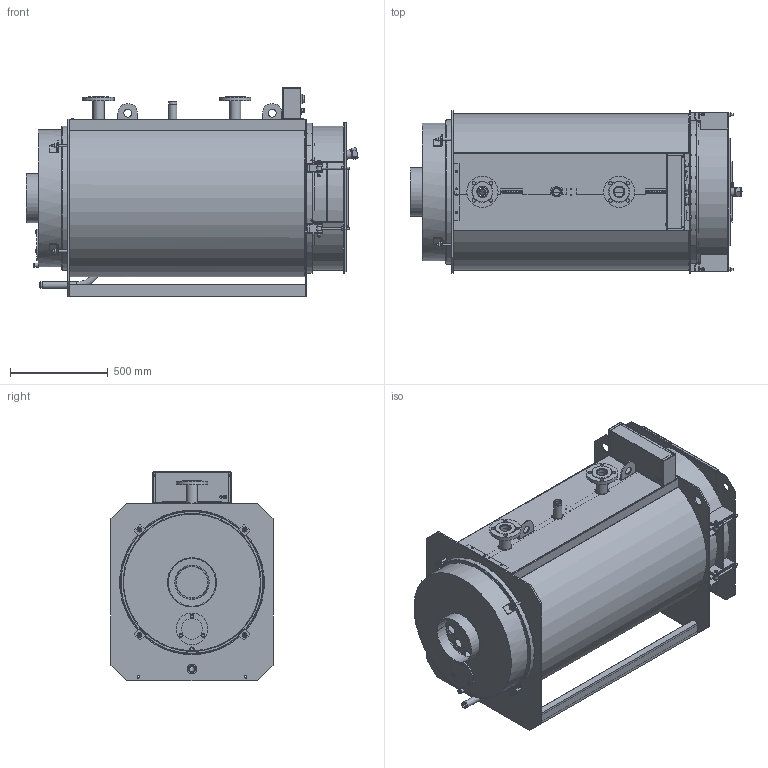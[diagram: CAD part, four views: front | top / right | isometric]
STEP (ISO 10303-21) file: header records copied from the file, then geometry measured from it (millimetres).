
FILE_DESCRIPTION(('STEP AP242'), '1');
FILE_NAME('TITAN Prom 4 (250 êÂò)', '', ('UNSPECIFIED'), ('UNSPECIFIED'), 'ASCON STEP Converter 1.6', 'ASCON Math Kernel', '');
FILE_SCHEMA(('AP242_MANAGED_MODEL_BASED_3D_ENGINEERING_MIM_LF { 1 0 10303 442 1 1 4 }'));
Length unit declared in the file: millimetre
Bounding box: 1700.29 x 830 x 1073.16 mm (x, y, z)
Volume: 83994492.1 mm3; surface area: 16617844.1 mm2
Topology: 34 solids, 34 shells, 3041 faces, 7583 edges, 4841 vertices
Faces by surface type: plane 1887, cylinder 855, cone 193, bspline 62, torus 29, extrusion 9, sphere 6
Full cylindrical faces by diameter (mm): 2 x4, 2.8 x27, 3 x1, 3.2 x4, 3.5 x8, 3.6 x4, 4 x12, 4.1 x2, 4.5 x12, 4.8 x1, 5 x17, 6 x5, 7 x2, 7.6 x1, 8 x3, 9 x2, 9.25 x4, 9.5 x8, 9.728 x1, 10 x30, 10.106 x5, 10.5 x1, 11 x16, 12 x20, 13 x13, 13.5 x4, 14 x8, 14.5 x1, 15 x3, 15.7 x1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
Entity records: 167695 total; most frequent: CARTESIAN_POINT 72871, ORIENTED_EDGE 14016, DIRECTION 13831, EDGE_CURVE 7008, AXIS2_PLACEMENT_3D 4879, VERTEX_POINT 4825, EDGE_LOOP 4213, VECTOR 4073
